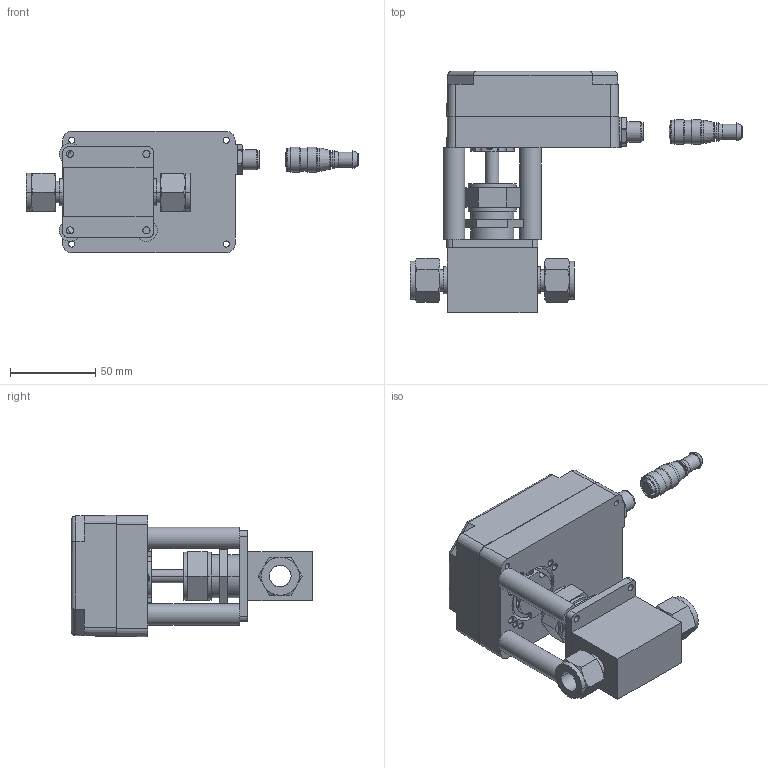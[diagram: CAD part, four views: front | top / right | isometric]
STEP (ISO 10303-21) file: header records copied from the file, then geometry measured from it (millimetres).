
FILE_DESCRIPTION (( 'STEP AP203' ), '1' );
FILE_NAME ('#M-Series Assembly w. 18RS8 (Client Copy).STEP', '2020-09-02T14:37:41', ( 'Technician #5' ), ( '' ), 'SwSTEP 2.0', 'SolidWorks 2020', '' );
FILE_SCHEMA (( 'CONFIG_CONTROL_DESIGN' ));
Length unit declared in the file: inch
Products named in the file (1): #M-Series Assembly w. 18RS8 (Client Copy)
Bounding box: 194.92 x 141.73 x 71.52 mm (x, y, z)
Surface area: 73765.4 mm2 (no closed solid volume)
Topology: 0 solids, 21 shells, 277 faces, 998 edges, 745 vertices
Faces by surface type: cylinder 104, plane 96, cone 68, bspline 8, torus 1
Full cylindrical faces by diameter (mm): 3.568 x8, 3.569 x7, 4.216 x4, 4.914 x4, 5.41 x4, 8 x1, 8.3 x1, 8.8 x1, 10.5 x1, 10.8 x1, 11.15 x1, 12 x1, 12.3 x1, 12.7 x3, 13.7 x3, 14.5 x2, 31.75 x1
Entity records: 15840 total; most frequent: CARTESIAN_POINT 8438, ORIENTED_EDGE 1363, DIRECTION 1311, EDGE_CURVE 882, VERTEX_POINT 706, AXIS2_PLACEMENT_3D 538, EDGE_LOOP 424, B_SPLINE_CURVE_WITH_KNOTS 363
